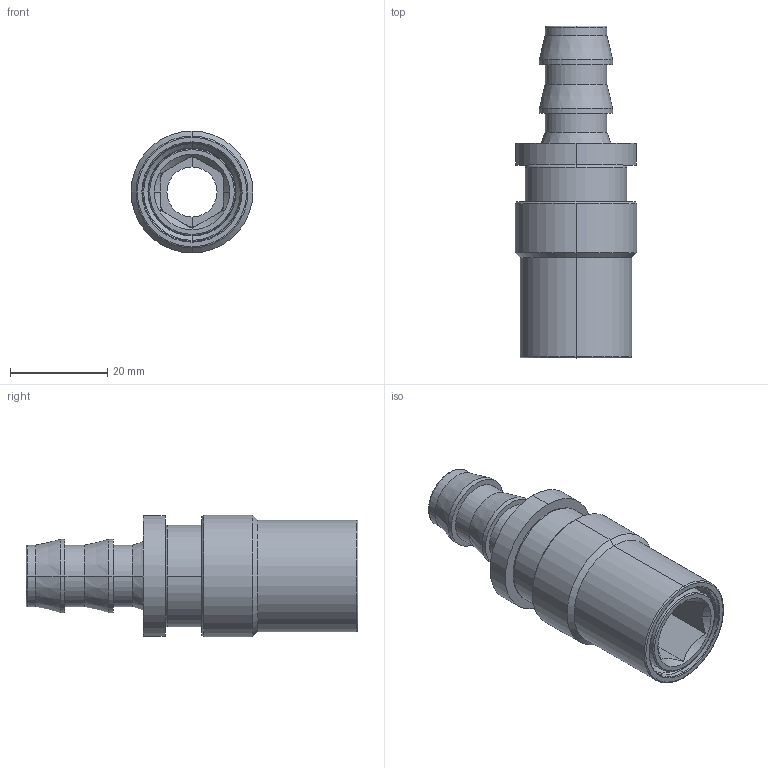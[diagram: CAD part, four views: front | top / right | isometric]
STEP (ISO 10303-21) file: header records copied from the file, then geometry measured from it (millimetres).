
FILE_DESCRIPTION (( 'STEP AP203' ), '1' );
FILE_NAME ('SC308-PL-K.step', '2025-04-15T15:15:51', ( '' ), ( '' ), 'SwSTEP 2.0', 'SolidWorks 2023', '' );
FILE_SCHEMA (( 'CONFIG_CONTROL_DESIGN' ));
Length unit declared in the file: inch
Products named in the file (1): SC308-PL-K
Bounding box: 25.08 x 68.28 x 25.08 mm (x, y, z)
Volume: 13855.8 mm3; surface area: 13404.6 mm2
Topology: 4 solids, 4 shells, 144 faces, 318 edges, 189 vertices
Faces by surface type: cone 53, cylinder 46, torus 24, plane 21
Entity records: 4198 total; most frequent: CARTESIAN_POINT 887, DIRECTION 743, ORIENTED_EDGE 636, AXIS2_PLACEMENT_3D 331, EDGE_CURVE 318, VERTEX_POINT 189, CIRCLE 186, EDGE_LOOP 159
